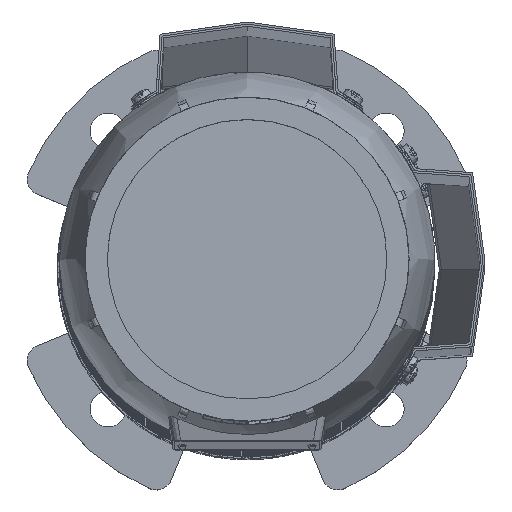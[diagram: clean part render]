
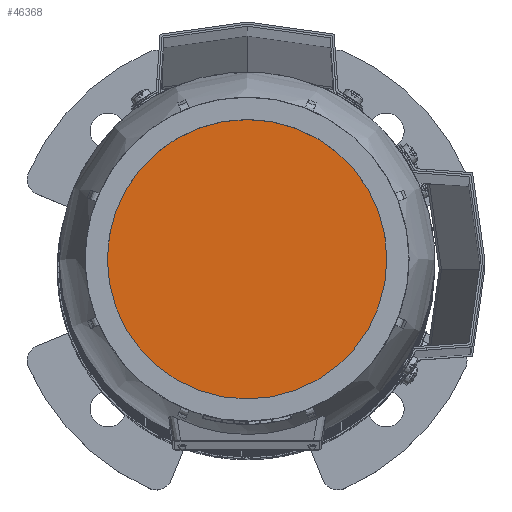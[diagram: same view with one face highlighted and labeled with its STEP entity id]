
A CAD part, top view. The second image highlights one B-rep face of the part: STEP entity #46368.
In plain terms, the highlighted planar face has unit normal (0, 0, 1) as drawn and (0, 1, 0) by its records, which use the part's own axes.
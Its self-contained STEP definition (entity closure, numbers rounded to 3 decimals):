
#9761=ORIENTED_EDGE('',*,*,#23707,.F.);
#23707=EDGE_CURVE('',#30680,#30680,#35387,.T.);
#30680=VERTEX_POINT('',#67023);
#35387=CIRCLE('',#48927,67.736);
#37509=EDGE_LOOP('',(#9761));
#40923=FACE_BOUND('',#37509,.T.);
#44355=PLANE('',#48926);
#46368=ADVANCED_FACE('',(#40923),#44355,.F.);
#48926=AXIS2_PLACEMENT_3D('',#67021,#53544,#53545);
#48927=AXIS2_PLACEMENT_3D('',#67022,#53546,#53547);
#53544=DIRECTION('',(0.,-1.,0.));
#53545=DIRECTION('',(0.,0.,-1.));
#53546=DIRECTION('',(0.,-1.,0.));
#53547=DIRECTION('',(0.,0.,-1.));
#67021=CARTESIAN_POINT('',(0.,154.,0.));
#67022=CARTESIAN_POINT('',(0.,154.,0.));
#67023=CARTESIAN_POINT('',(0.,154.,-67.736));
